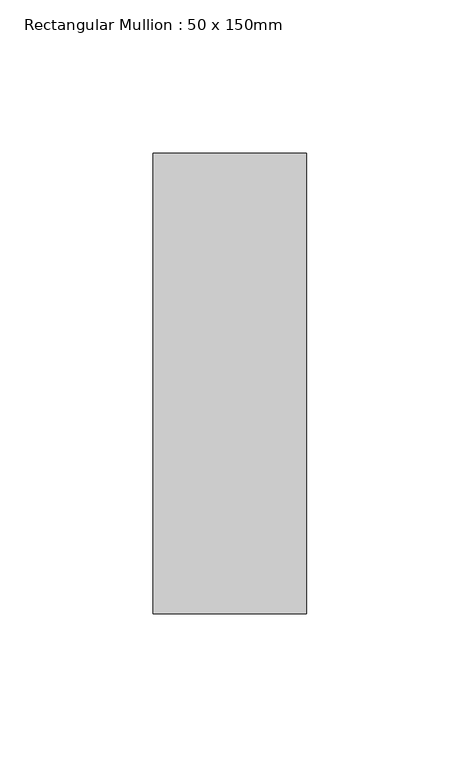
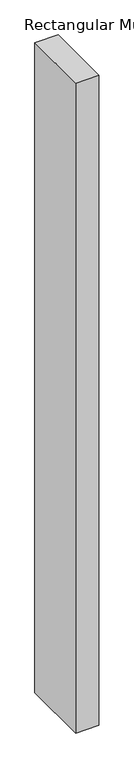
"""IFC4 building model written with IfcOpenShell, lengths in millimetres: member geometry, Rectangular Mullion : 50 x 150mm."""

from ifc_helpers import new_model, si_unit, frame, origin, place, context, project, spatial, polyline, outline, extrude, source, transform, mapped, element, save


def rectangular_mullion_50_x_150mm_f5d830c2(model_context):
    return source(origin(), model_context, "Body", "SweptSolid", [
        extrude(outline(polyline([(0.0, 75.0), (0.0, -75.0), (-50.0, -75.0), (-50.0, 75.0), (0.0, 75.0)])), frame((0.0, 0.0, -1464.8264604), z_axis=(0.0, 0.0, 1.0), x_axis=(1.0, 0.0, 0.0)), (0.0, 0.0, 1.0), 1464.8264604),
    ])


if __name__ == "__main__":
    model = new_model("IFC4")
    model_context = context("Model", 3, world=origin())
    ifc_project = project(units=[si_unit("LENGTHUNIT", "METRE", prefix="MILLI")], contexts=[model_context])
    site = spatial("IfcSite", under=ifc_project)
    building = spatial("IfcBuilding", under=site)
    placement = place(None, origin())
    rectangular_mullion_50_x_150mm_shape = rectangular_mullion_50_x_150mm_f5d830c2(model_context)
    element("IfcMember", 1, ObjectType="Rectangular Mullion : 50 x 150mm", at=placement, inside=building, context=model_context, shape_type="MappedRepresentation", body=[
        mapped(rectangular_mullion_50_x_150mm_shape, transform((0.0, 0.0, 0.0), x_axis=(1.0, 0.0, 0.0), y_axis=(0.0, 1.0, 0.0), z_axis=(0.0, 0.0, 1.0))),
    ])
    save(model, "model.ifc")
